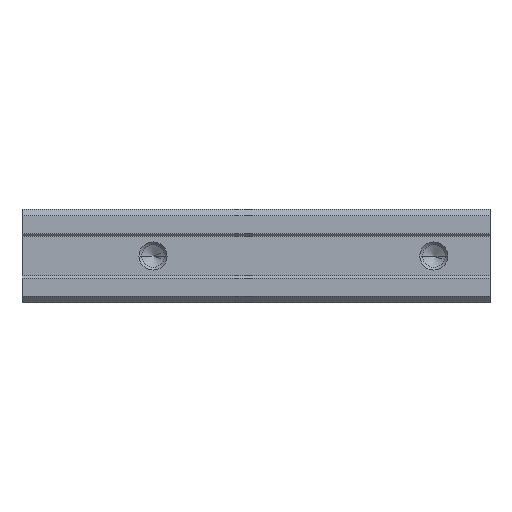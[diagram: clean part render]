
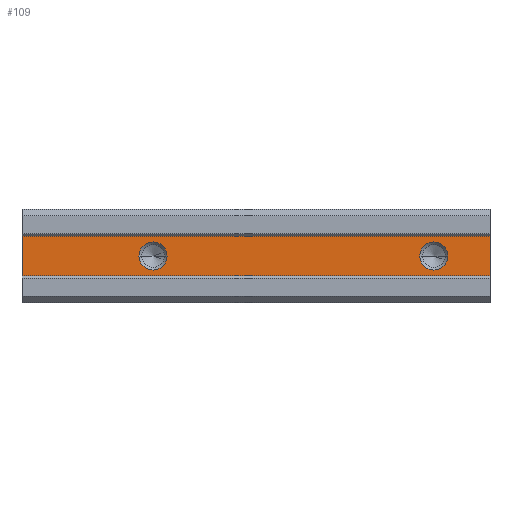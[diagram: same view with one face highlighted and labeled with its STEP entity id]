
A CAD part, front view. The second image highlights one B-rep face of the part: STEP entity #109.
In plain terms, the highlighted planar face has unit normal (0, -1, 0).
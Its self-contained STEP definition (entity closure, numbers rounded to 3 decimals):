
#109 = ADVANCED_FACE( '', ( #184, #185, #186 ), #187, .T. );
#184 = FACE_BOUND( '', #266, .T. );
#185 = FACE_BOUND( '', #267, .T. );
#186 = FACE_OUTER_BOUND( '', #268, .T. );
#187 = PLANE( '', #269 );
#266 = EDGE_LOOP( '', ( #514, #515 ) );
#267 = EDGE_LOOP( '', ( #516, #517 ) );
#268 = EDGE_LOOP( '', ( #518, #519, #520, #521 ) );
#269 = AXIS2_PLACEMENT_3D( '', #522, #523, #524 );
#514 = ORIENTED_EDGE( '', *, *, #623, .T. );
#515 = ORIENTED_EDGE( '', *, *, #624, .T. );
#516 = ORIENTED_EDGE( '', *, *, #617, .T. );
#517 = ORIENTED_EDGE( '', *, *, #626, .T. );
#518 = ORIENTED_EDGE( '', *, *, #695, .T. );
#519 = ORIENTED_EDGE( '', *, *, #696, .F. );
#520 = ORIENTED_EDGE( '', *, *, #697, .T. );
#521 = ORIENTED_EDGE( '', *, *, #693, .T. );
#522 = CARTESIAN_POINT( '', ( 0., 0.5, -4.25 ) );
#523 = DIRECTION( '', ( 0., -1., 0. ) );
#524 = DIRECTION( '', ( 0., 0., -1. ) );
#617 = EDGE_CURVE( '', #726, #728, #730, .T. );
#623 = EDGE_CURVE( '', #735, #737, #739, .T. );
#624 = EDGE_CURVE( '', #737, #735, #740, .T. );
#626 = EDGE_CURVE( '', #728, #726, #742, .T. );
#693 = EDGE_CURVE( '', #854, #852, #855, .T. );
#695 = EDGE_CURVE( '', #852, #857, #858, .T. );
#696 = EDGE_CURVE( '', #859, #857, #860, .T. );
#697 = EDGE_CURVE( '', #859, #854, #861, .T. );
#726 = VERTEX_POINT( '', #900 );
#728 = VERTEX_POINT( '', #903 );
#730 = CIRCLE( '', #906, 3. );
#735 = VERTEX_POINT( '', #913 );
#737 = VERTEX_POINT( '', #916 );
#739 = CIRCLE( '', #919, 3. );
#740 = CIRCLE( '', #920, 3. );
#742 = CIRCLE( '', #922, 3. );
#852 = VERTEX_POINT( '', #1092 );
#854 = VERTEX_POINT( '', #1095 );
#855 = LINE( '', #1096, #1097 );
#857 = VERTEX_POINT( '', #1100 );
#858 = LINE( '', #1101, #1102 );
#859 = VERTEX_POINT( '', #1103 );
#860 = LINE( '', #1104, #1105 );
#861 = LINE( '', #1106, #1107 );
#900 = CARTESIAN_POINT( '', ( 91., 0.5, 0. ) );
#903 = CARTESIAN_POINT( '', ( 85., 0.5, 0. ) );
#906 = AXIS2_PLACEMENT_3D( '', #1151, #1152, #1153 );
#913 = CARTESIAN_POINT( '', ( 31., 0.5, 0. ) );
#916 = CARTESIAN_POINT( '', ( 25., 0.5, 0. ) );
#919 = AXIS2_PLACEMENT_3D( '', #1161, #1162, #1163 );
#920 = AXIS2_PLACEMENT_3D( '', #1164, #1165, #1166 );
#922 = AXIS2_PLACEMENT_3D( '', #1170, #1171, #1172 );
#1092 = CARTESIAN_POINT( '', ( 100., 0.5, -4.25 ) );
#1095 = CARTESIAN_POINT( '', ( 0., 0.5, -4.25 ) );
#1096 = CARTESIAN_POINT( '', ( 0., 0.5, -4.25 ) );
#1097 = VECTOR( '', #1249, 1. );
#1100 = CARTESIAN_POINT( '', ( 100., 0.5, 4.25 ) );
#1101 = CARTESIAN_POINT( '', ( 100., 0.5, 4.25 ) );
#1102 = VECTOR( '', #1251, 1. );
#1103 = CARTESIAN_POINT( '', ( 0., 0.5, 4.25 ) );
#1104 = CARTESIAN_POINT( '', ( 0., 0.5, 4.25 ) );
#1105 = VECTOR( '', #1252, 1. );
#1106 = CARTESIAN_POINT( '', ( 0., 0.5, 4.25 ) );
#1107 = VECTOR( '', #1253, 1. );
#1151 = CARTESIAN_POINT( '', ( 88., 0.5, 0. ) );
#1152 = DIRECTION( '', ( 0., 1., 0. ) );
#1153 = DIRECTION( '', ( 1., 0., 0. ) );
#1161 = CARTESIAN_POINT( '', ( 28., 0.5, 0. ) );
#1162 = DIRECTION( '', ( 0., 1., 0. ) );
#1163 = DIRECTION( '', ( 1., 0., 0. ) );
#1164 = CARTESIAN_POINT( '', ( 28., 0.5, 0. ) );
#1165 = DIRECTION( '', ( 0., 1., 0. ) );
#1166 = DIRECTION( '', ( 1., 0., 0. ) );
#1170 = CARTESIAN_POINT( '', ( 88., 0.5, 0. ) );
#1171 = DIRECTION( '', ( 0., 1., 0. ) );
#1172 = DIRECTION( '', ( 1., 0., 0. ) );
#1249 = DIRECTION( '', ( 1., 0., 0. ) );
#1251 = DIRECTION( '', ( 0., 0., 1. ) );
#1252 = DIRECTION( '', ( 1., 0., 0. ) );
#1253 = DIRECTION( '', ( 0., 0., -1. ) );
